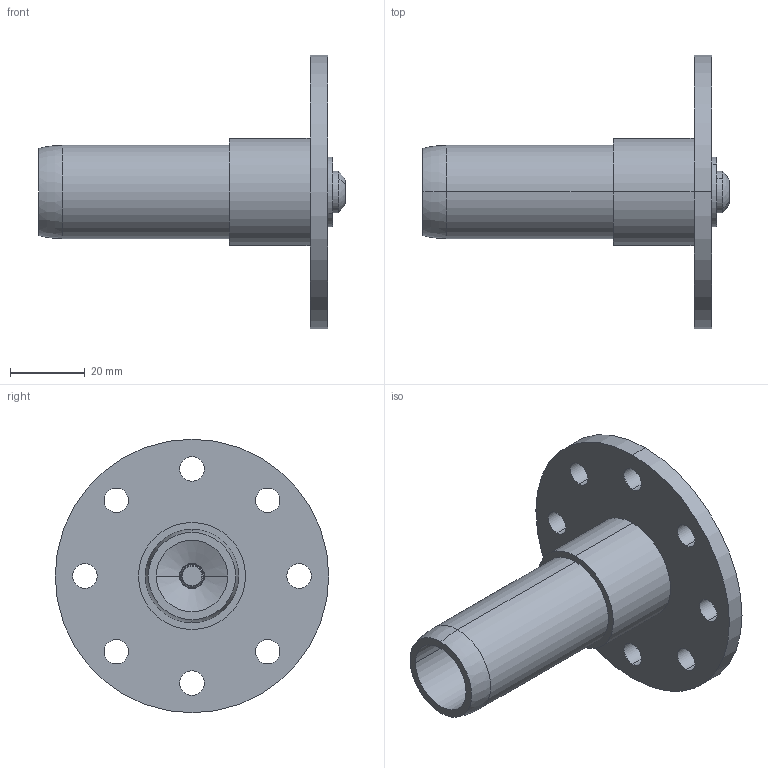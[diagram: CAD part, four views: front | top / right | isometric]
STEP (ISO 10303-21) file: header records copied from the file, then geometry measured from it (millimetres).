
FILE_DESCRIPTION (( 'STEP AP214' ), '1' );
FILE_NAME ('1 Inch 8 Hole Keyed Disc Kit.STEP', '2014-01-10T16:36:37', ( 'ydmin' ), ( 'Microsoft' ), 'SwSTEP 2.0', 'SolidWorks 2013', '' );
FILE_SCHEMA (( 'AUTOMOTIVE_DESIGN' ));
Length unit declared in the file: inch
Products named in the file (1): 1 Inch 8 Hole Keyed Disc Kit
Bounding box: 81.78 x 73.03 x 73.03 mm (x, y, z)
Volume: 41987.4 mm3; surface area: 22108.8 mm2
Topology: 5 solids, 5 shells, 232 faces, 516 edges, 298 vertices
Faces by surface type: cylinder 105, cone 77, plane 38, bspline 8, torus 2, sphere 2
Entity records: 12742 total; most frequent: CARTESIAN_POINT 4590, DIRECTION 1062, ORIENTED_EDGE 1032, EDGE_CURVE 516, AXIS2_PLACEMENT_3D 412, VERTEX_POINT 298, EDGE_LOOP 258, UNCERTAINTY_MEASURE_WITH_UNIT 239
